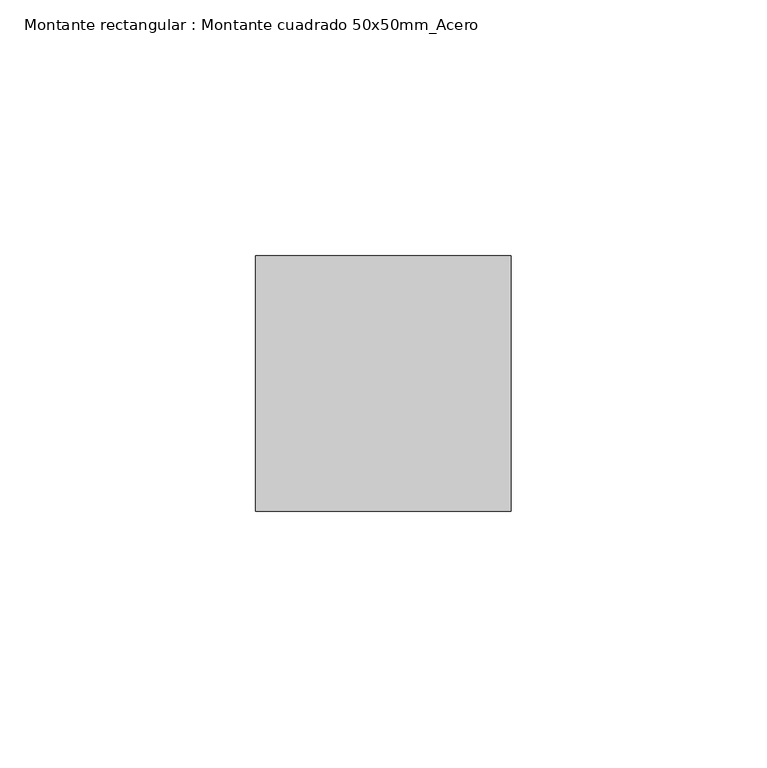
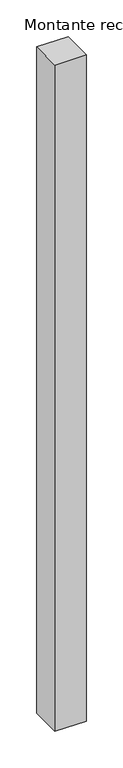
"""IFC4 building model written with IfcOpenShell, lengths in millimetres: member geometry, Montante rectangular : Montante cuadrado 50x50mm_Acero."""

from ifc_helpers import new_model, si_unit, frame, origin, place, context, project, spatial, polyline, outline, extrude, source, transform, mapped, element, save


def montante_rectangular_montante_cuadrado_50x50mm_acero_1148ac7a(model_context):
    return source(origin(), model_context, "Body", "SweptSolid", [
        extrude(outline(polyline([(-50.0, 0.0), (0.0, 0.0), (0.0, -50.0), (-50.0, -50.0), (-50.0, 0.0)])), frame((0.0, 0.0, -1114.0000013), z_axis=(0.0, 0.0, 1.0), x_axis=(1.0, 0.0, 0.0)), (0.0, 0.0, 1.0), 1114.0000013),
    ])


if __name__ == "__main__":
    model = new_model("IFC4")
    model_context = context("Model", 3, world=origin())
    ifc_project = project(units=[si_unit("LENGTHUNIT", "METRE", prefix="MILLI")], contexts=[model_context])
    site = spatial("IfcSite", under=ifc_project)
    building = spatial("IfcBuilding", under=site)
    placement = place(None, origin())
    montante_rectangular_montante_cuadrado_50x50mm_acero_shape = montante_rectangular_montante_cuadrado_50x50mm_acero_1148ac7a(model_context)
    element("IfcMember", 1, ObjectType="Montante rectangular : Montante cuadrado 50x50mm_Acero", at=placement, inside=building, context=model_context, shape_type="MappedRepresentation", body=[
        mapped(montante_rectangular_montante_cuadrado_50x50mm_acero_shape, transform((0.0, 0.0, 0.0), x_axis=(1.0, 0.0, 0.0), y_axis=(0.0, 1.0, 0.0), z_axis=(0.0, 0.0, 1.0))),
    ])
    save(model, "model.ifc")
